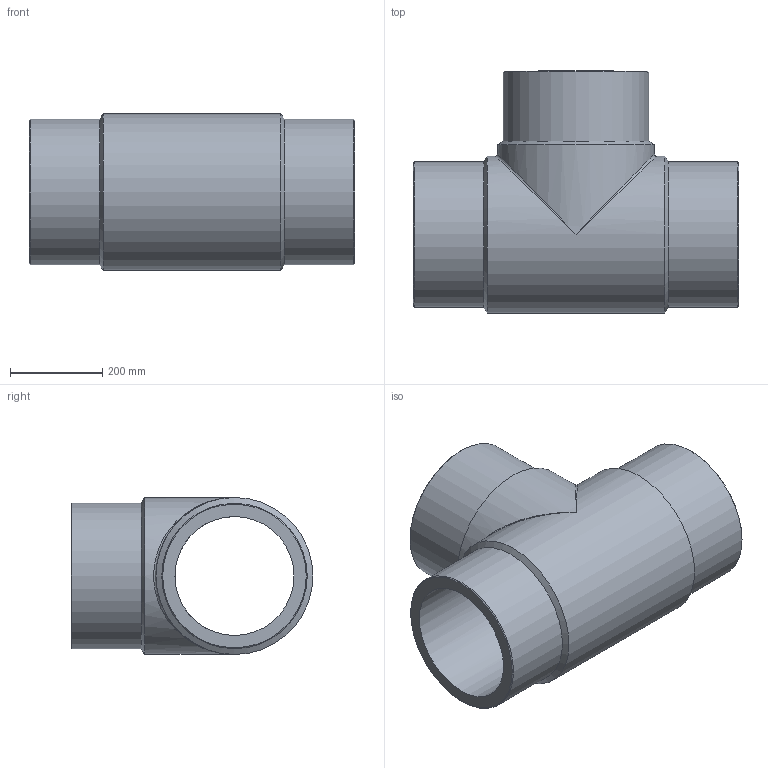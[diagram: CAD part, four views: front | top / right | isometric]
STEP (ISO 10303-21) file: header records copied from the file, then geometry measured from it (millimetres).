
FILE_DESCRIPTION(/* description */ ('Unknown'),/* implementation_level */ '2;1');
FILE_NAME(/* name */ 'TP315C',/* time_stamp */ '2021-08-10T15:34:46+02:00',/* author */ ('Unknown'),/* organization */ ('Unknown'),/* preprocessor_version */ 'ST-DEVELOPER v16.7',/* originating_system */ 'Solid Edge',/* authorisation */ 'Unknown');
FILE_SCHEMA (('AUTOMOTIVE_DESIGN {1 0 10303 214 3 1 1}'));
Length unit declared in the file: millimetre
Products named in the file (1): TP315C
Bounding box: 704 x 524 x 340 mm (x, y, z)
Volume: 27427422 mm3; surface area: 1680797.6 mm2
Topology: 1 solids, 1 shells, 18 faces, 44 edges, 23 vertices
Faces by surface type: cylinder 7, cone 6, plane 3, bspline 2
Full cylindrical faces by diameter (mm): 257.8 x2, 315 x3, 340 x2
Entity records: 528 total; most frequent: CARTESIAN_POINT 171, DIRECTION 76, ORIENTED_EDGE 42, AXIS2_PLACEMENT_3D 38, EDGE_LOOP 36, FACE_BOUND 36, EDGE_CURVE 21, VERTEX_POINT 19
